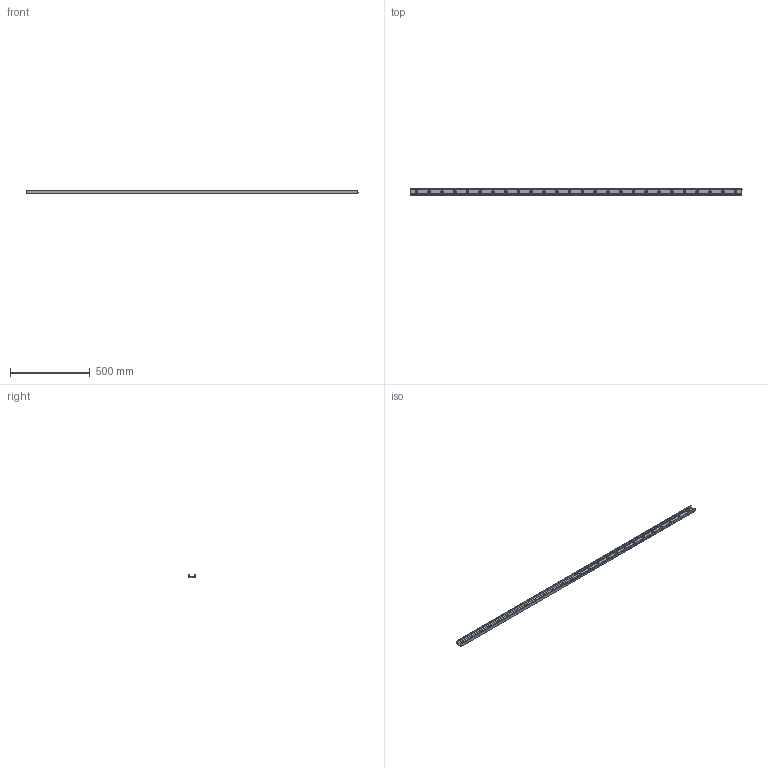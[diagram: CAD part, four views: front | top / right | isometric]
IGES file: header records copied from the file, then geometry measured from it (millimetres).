
Start section: SolidWorks IGES file using analytic representation for surfaces
Global section: file name: C:\Users\IanO\Desktop\43\L1943.ULV43_v2_20180121_IGES\L1943.ULV43-2080.igs; native system: SolidWorks 2017; preprocessor: SolidWorks 2017; author: IanO; date: 190121.090226; units: millimetre
Bounding box: 2080 x 43 x 21 mm (x, y, z)
Surface area: 322922.4 mm2 (no closed solid volume)
Topology: 0 solids, 0 shells, 130 faces, 2374 edges, 2374 vertices
Faces by surface type: revolution 117, bspline 13
